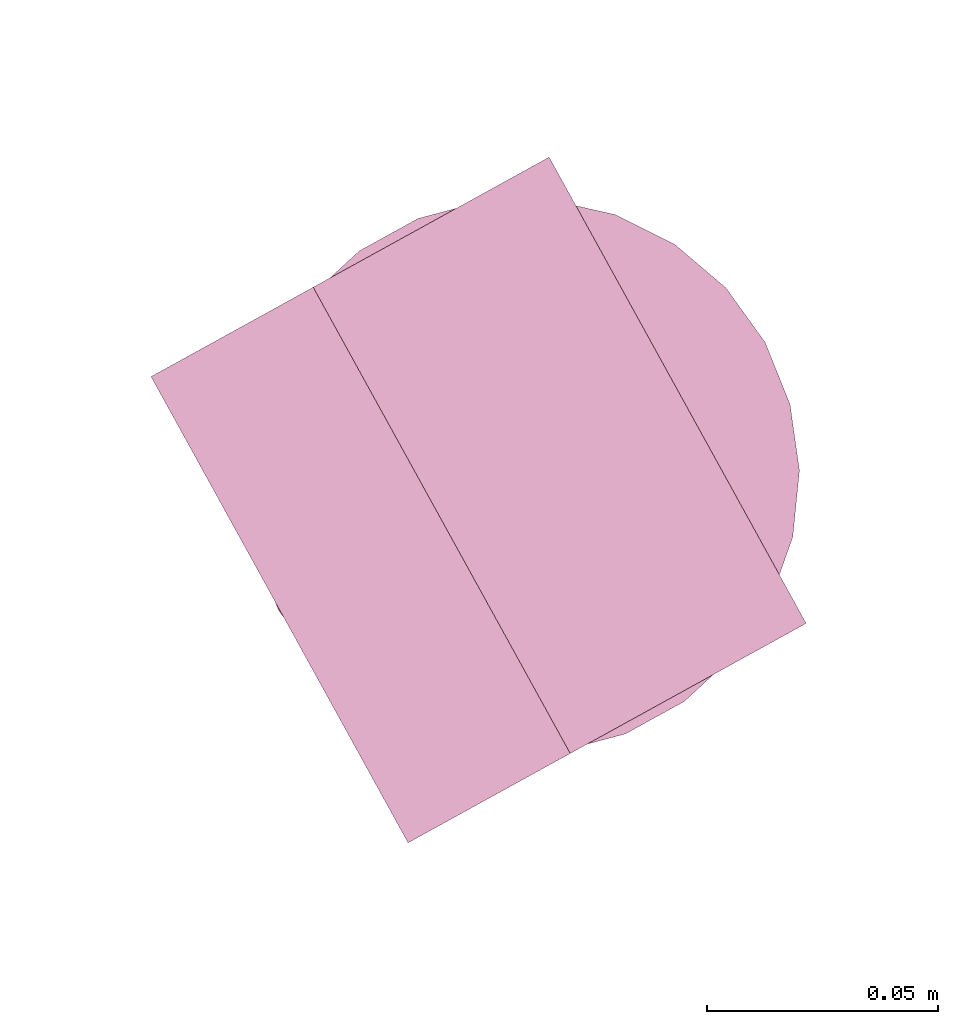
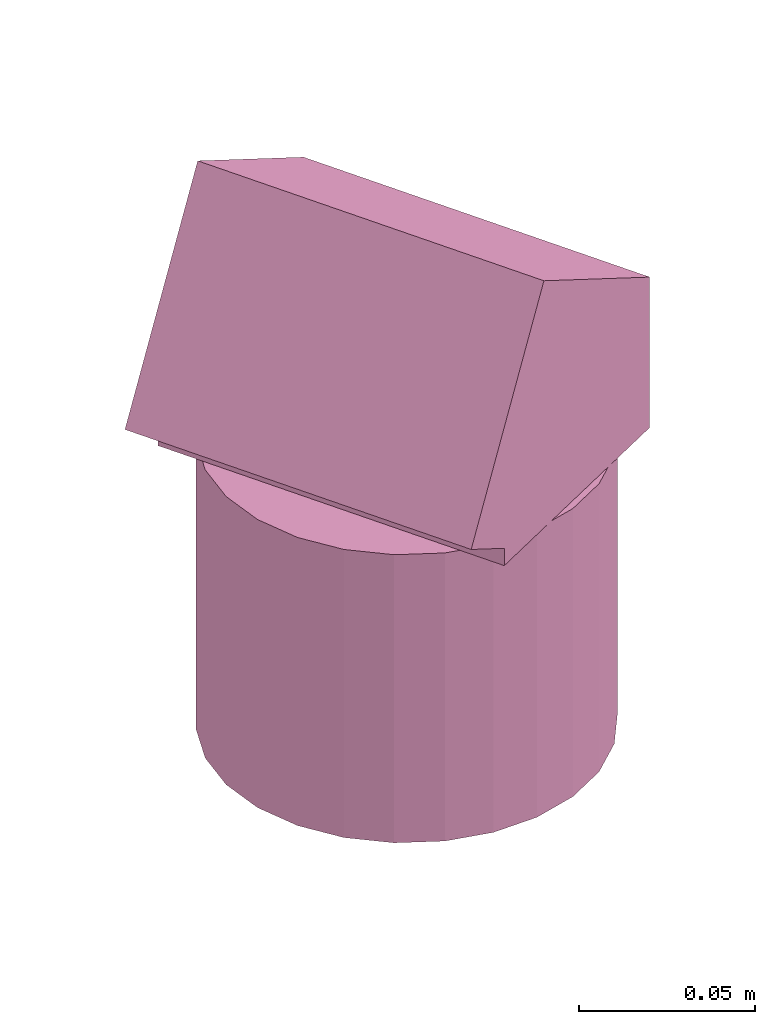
# One storey, part 5 of 10: 1 furnishing.
"""IFC2X3 building model written with IfcOpenShell, lengths in metres."""

from ifc_helpers import new_model, entity, si_unit, converted_unit, derived_unit, direction, frame, frame_2d, origin, place, context, subcontext, project, spatial, polyline, circle, outline, extrude, source, transform, mapped, material, material_list, type_object, type_shapes, element, save


model = new_model("IFC2X3")

# Units and contexts
model_context = context("Model", 3, precision=1e-05, world=origin(), true_north=direction((6.123031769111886e-17, 1.0)))
body_context = subcontext(model_context, "Body", "Model", "MODEL_VIEW")
ifc_project = project(units=[si_unit("LENGTHUNIT", "METRE"), si_unit("AREAUNIT", "SQUARE_METRE"), si_unit("VOLUMEUNIT", "CUBIC_METRE"), converted_unit("PLANEANGLEUNIT", "DEGREE", entity("IfcRatioMeasure", 0.017453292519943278), si_unit("PLANEANGLEUNIT", "RADIAN"), dimensions=[0, 0, 0, 0, 0, 0, 0]), si_unit("MASSUNIT", "GRAM", prefix="KILO"), derived_unit("MASSDENSITYUNIT", [(si_unit("MASSUNIT", "GRAM", prefix="KILO"), 1), (si_unit("LENGTHUNIT", "METRE"), -3)]), derived_unit("IONCONCENTRATIONUNIT", [(si_unit("MASSUNIT", "GRAM", prefix="KILO"), 1), (si_unit("LENGTHUNIT", "METRE"), -3)]), derived_unit("MOMENTOFINERTIAUNIT", [(si_unit("LENGTHUNIT", "METRE"), 4)]), si_unit("TIMEUNIT", "SECOND"), si_unit("FREQUENCYUNIT", "HERTZ"), si_unit("THERMODYNAMICTEMPERATUREUNIT", "DEGREE_CELSIUS"), derived_unit("THERMALTRANSMITTANCEUNIT", [(si_unit("MASSUNIT", "GRAM", prefix="KILO"), 1), (si_unit("THERMODYNAMICTEMPERATUREUNIT", "KELVIN"), -1), (si_unit("TIMEUNIT", "SECOND"), -3)]), derived_unit("THERMALCONDUCTANCEUNIT", [(si_unit("MASSUNIT", "GRAM", prefix="KILO"), 1), (si_unit("THERMODYNAMICTEMPERATUREUNIT", "KELVIN"), -1), (si_unit("TIMEUNIT", "SECOND"), -3), (si_unit("LENGTHUNIT", "METRE"), 1)]), derived_unit("VOLUMETRICFLOWRATEUNIT", [(si_unit("LENGTHUNIT", "METRE"), 3), (si_unit("TIMEUNIT", "SECOND"), -1)]), derived_unit("MASSFLOWRATEUNIT", [(si_unit("MASSUNIT", "GRAM", prefix="KILO"), 1), (si_unit("TIMEUNIT", "SECOND"), -1)]), derived_unit("ROTATIONALFREQUENCYUNIT", [(si_unit("TIMEUNIT", "SECOND"), -1)]), si_unit("ELECTRICCURRENTUNIT", "AMPERE"), si_unit("ELECTRICVOLTAGEUNIT", "VOLT"), si_unit("POWERUNIT", "WATT"), si_unit("FORCEUNIT", "NEWTON", prefix="KILO"), si_unit("ILLUMINANCEUNIT", "LUX"), si_unit("LUMINOUSFLUXUNIT", "LUMEN"), si_unit("LUMINOUSINTENSITYUNIT", "CANDELA"), derived_unit("USERDEFINED", [(si_unit("MASSUNIT", "GRAM", prefix="KILO"), -1), (si_unit("LENGTHUNIT", "METRE"), -2), (si_unit("TIMEUNIT", "SECOND"), 3), (si_unit("LUMINOUSFLUXUNIT", "LUMEN"), 1)]), derived_unit("USERDEFINED", [(si_unit("MASSUNIT", "GRAM", prefix="KILO"), 1), (si_unit("TIMEUNIT", "SECOND"), -3), (si_unit("LENGTHUNIT", "METRE"), 3), (si_unit("ELECTRICCURRENTUNIT", "AMPERE"), -2)]), derived_unit("SOUNDPOWERUNIT", [(si_unit("MASSUNIT", "GRAM", prefix="KILO"), 1), (si_unit("TIMEUNIT", "SECOND"), -3), (si_unit("LENGTHUNIT", "METRE"), 2)]), derived_unit("SOUNDPRESSUREUNIT", [(si_unit("MASSUNIT", "GRAM", prefix="KILO"), 1), (si_unit("LENGTHUNIT", "METRE"), -1), (si_unit("TIMEUNIT", "SECOND"), -2)]), derived_unit("LINEARVELOCITYUNIT", [(si_unit("LENGTHUNIT", "METRE"), 1), (si_unit("TIMEUNIT", "SECOND"), -1)]), si_unit("PRESSUREUNIT", "PASCAL"), derived_unit("USERDEFINED", [(si_unit("MASSUNIT", "GRAM", prefix="KILO"), 1), (si_unit("LENGTHUNIT", "METRE"), -2), (si_unit("TIMEUNIT", "SECOND"), -2)]), derived_unit("LINEARFORCEUNIT", [(si_unit("MASSUNIT", "GRAM", prefix="KILO"), 1), (si_unit("TIMEUNIT", "SECOND"), -2)]), derived_unit("PLANARFORCEUNIT", [(si_unit("MASSUNIT", "GRAM", prefix="KILO"), 1), (si_unit("LENGTHUNIT", "METRE"), -1), (si_unit("TIMEUNIT", "SECOND"), -2)]), derived_unit("SPECIFICHEATCAPACITYUNIT", [(si_unit("THERMODYNAMICTEMPERATUREUNIT", "KELVIN"), -1), (si_unit("LENGTHUNIT", "METRE"), 2), (si_unit("TIMEUNIT", "SECOND"), -2)]), derived_unit("HEATINGVALUEUNIT", [(si_unit("LENGTHUNIT", "METRE"), 2), (si_unit("TIMEUNIT", "SECOND"), -2)]), derived_unit("VAPORPERMEABILITYUNIT", [(si_unit("LENGTHUNIT", "METRE"), -1), (si_unit("TIMEUNIT", "SECOND"), 1)]), derived_unit("DYNAMICVISCOSITYUNIT", [(si_unit("MASSUNIT", "GRAM", prefix="KILO"), 1), (si_unit("TIMEUNIT", "SECOND"), -1), (si_unit("LENGTHUNIT", "METRE"), -1)]), derived_unit("THERMALEXPANSIONCOEFFICIENTUNIT", [(si_unit("THERMODYNAMICTEMPERATUREUNIT", "KELVIN"), -1)]), derived_unit("MODULUSOFELASTICITYUNIT", [(si_unit("MASSUNIT", "GRAM", prefix="KILO"), 1), (si_unit("LENGTHUNIT", "METRE"), -1), (si_unit("TIMEUNIT", "SECOND"), -2)]), derived_unit("ISOTHERMALMOISTURECAPACITYUNIT", [(si_unit("LENGTHUNIT", "METRE"), 3), (si_unit("MASSUNIT", "GRAM", prefix="KILO"), -1)]), derived_unit("MOISTUREDIFFUSIVITYUNIT", [(si_unit("TIMEUNIT", "SECOND"), -1), (si_unit("LENGTHUNIT", "METRE"), 2)])], contexts=[model_context])

# Site, building, storey
site_placement = place(None, origin())
site = spatial("IfcSite", under=ifc_project, at=site_placement, Name="Default", CompositionType="ELEMENT")
building_placement = place(site_placement, origin())
building = spatial("IfcBuilding", under=site, at=building_placement, Name="Projeto", CompositionType="ELEMENT")
storey_placement = place(building_placement, frame((0.0, 0.0, -2.581035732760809)))
storey = spatial("IfcBuildingStorey", under=building, at=storey_placement, Name="Nível 9", CompositionType="ELEMENT", Elevation=-2.581035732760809)

# Furnishing
ifc_material_1 = material(Name="Aço")
ifc_material_2 = material(Name="<Unnamed>")
ifc_material_list = material_list([ifc_material_1, ifc_material_2])
furniture_type = type_object("IfcFurnitureType", Name="Iluminação de chão:Iluminação de chão", material=ifc_material_list)
shared_shape = source(origin(), body_context, "Body", "SweptSolid", [
    extrude(outline(polyline([(-0.026756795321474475, -0.05273292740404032), (0.025445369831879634, -0.05273292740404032), (0.05904645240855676, 0.0054658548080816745), (-0.010235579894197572, 0.04546585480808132), (-0.02074265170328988, 0.027267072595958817), (-0.02675679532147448, 0.027267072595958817), (-0.026756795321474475, -0.05273292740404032)])), frame((0.014277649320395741, -0.05750000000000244, 0.026756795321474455), z_axis=(0.0, 1.0, 0.0), x_axis=(0.0, 0.0, 1.0)), (0.0, 0.0, 1.0), 0.11499999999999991),
    extrude(circle(Radius=0.059999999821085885, at=frame_2d((1.4775496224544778e-22, -9.693267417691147e-17), x_axis=(1.0, 0.0))), frame((0.0, 0.0, -0.10000000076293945)), (0.0, 0.0, 1.0), 0.10000000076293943),
])
type_shapes(furniture_type, [shared_shape])
furnishing_placement = place(storey_placement, frame((27.872172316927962, -11.231768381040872, 2.581035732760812), z_axis=(0.0, 0.0, 1.0), x_axis=(-0.8757410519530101, -0.48278112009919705, 0.0)))
element("IfcFurnishingElement", 1, at=furnishing_placement, inside=storey, type_object=furniture_type, material=ifc_material_list, Name="Iluminação de chão:Iluminação de chão", ObjectType="Iluminação de chão:Iluminação de chão", context=body_context, shape_type="MappedRepresentation", body=[
    mapped(shared_shape, transform((0.0, 0.0, 0.0), scale=1.0)),
])

save(model, "model.ifc")
